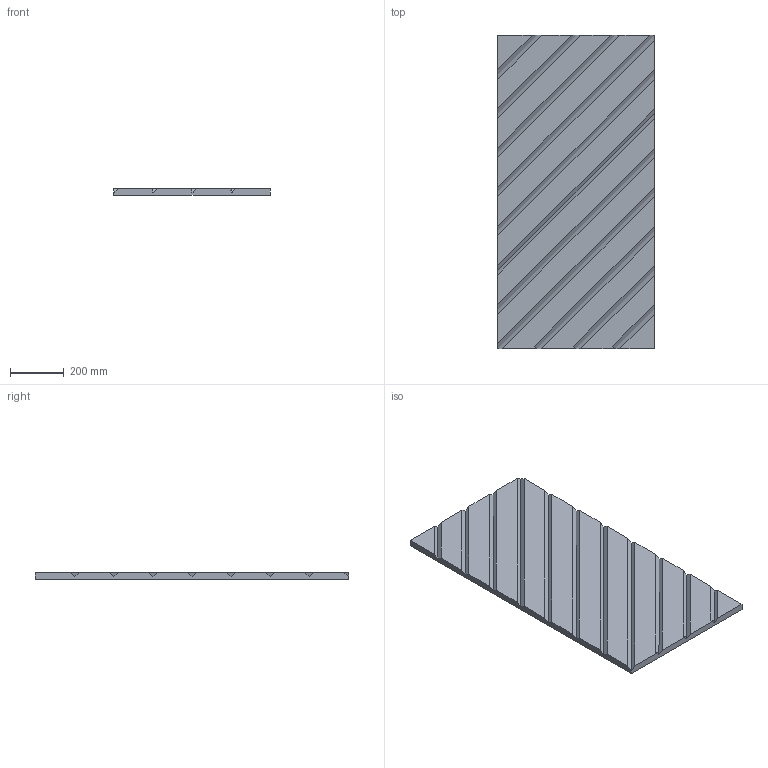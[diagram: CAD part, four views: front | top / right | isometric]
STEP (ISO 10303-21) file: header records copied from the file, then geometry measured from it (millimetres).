
FILE_DESCRIPTION (( 'STEP AP214' ), '1' );
FILE_NAME ('diagonal.STEP', '2015-01-21T17:10:02', ( '' ), ( '' ), 'SwSTEP 2.0', 'SolidWorks 2014', '' );
FILE_SCHEMA (( 'AUTOMOTIVE_DESIGN' ));
Length unit declared in the file: millimetre
Products named in the file (1): diagonal
Bounding box: 580 x 1160 x 25 mm (x, y, z)
Volume: 15796973.8 mm3; surface area: 1496029.2 mm2
Topology: 1 solids, 1 shells, 42 faces, 115 edges, 75 vertices
Faces by surface type: plane 42
Entity records: 1333 total; most frequent: CARTESIAN_POINT 233, ORIENTED_EDGE 230, DIRECTION 201, VECTOR 115, LINE 115, EDGE_CURVE 115, VERTEX_POINT 75, AXIS2_PLACEMENT_3D 43
